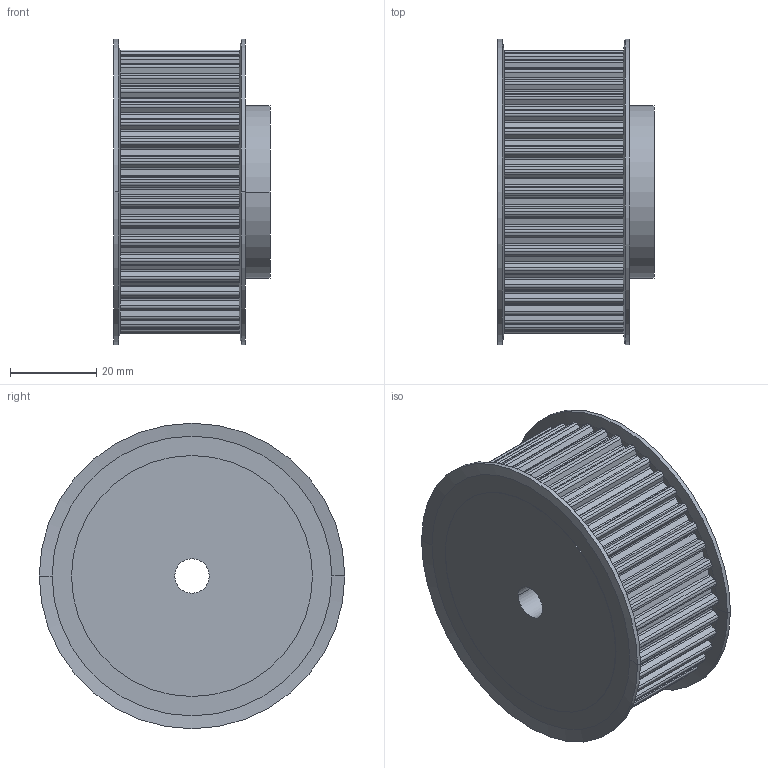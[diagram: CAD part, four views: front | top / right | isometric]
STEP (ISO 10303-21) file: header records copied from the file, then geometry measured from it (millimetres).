
FILE_DESCRIPTION( ( '' ), '1' );
FILE_NAME( 'C:/Users/Stangenbergd/Documents/CAD_Step/1/16244200.stp', '2021-10-19T08:46:24', ( '' ), ( '' ), ' ', ' ', ' ' );
FILE_SCHEMA( ( 'CONFIG_CONTROL_DESIGN' ) );
Length unit declared in the file: millimetre
Products named in the file (1): 1
Bounding box: 36.27 x 71 x 71 mm (x, y, z)
Volume: 103192.6 mm3; surface area: 20038.1 mm2
Topology: 1 solids, 1 shells, 529 faces, 1396 edges, 872 vertices
Faces by surface type: plane 299, cylinder 222, cone 8
Entity records: 16430 total; most frequent: DIRECTION 3076, CARTESIAN_POINT 2798, ORIENTED_EDGE 2792, EDGE_CURVE 1396, AXIS2_PLACEMENT_3D 1150, VERTEX_POINT 872, LINE 776, VECTOR 776
